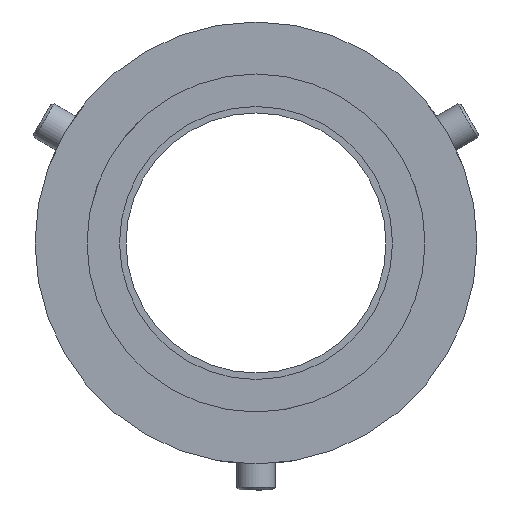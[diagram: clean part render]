
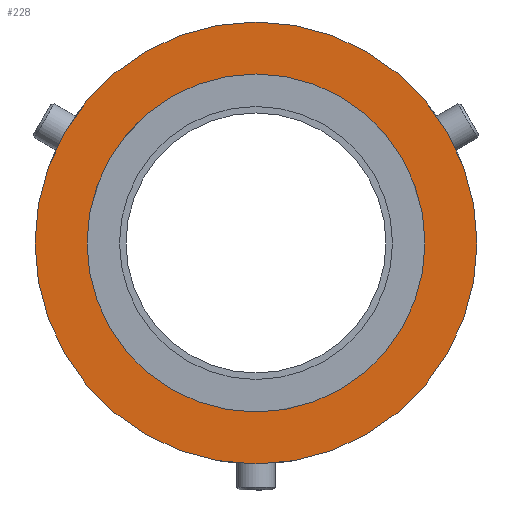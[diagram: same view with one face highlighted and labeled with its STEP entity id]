
A CAD part, front view. The second image highlights one B-rep face of the part: STEP entity #228.
In plain terms, the highlighted planar face has unit normal (0, -1, 0).
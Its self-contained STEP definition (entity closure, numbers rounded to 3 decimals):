
#44 = CIRCLE ( 'NONE', #1805, 17. ) ;
#57 = DIRECTION ( 'NONE',  ( 0., -1., 0. ) ) ;
#63 = AXIS2_PLACEMENT_3D ( 'NONE', #2050, #535, #1862 ) ;
#93 = EDGE_LOOP ( 'NONE', ( #1822, #1949 ) ) ;
#228 = ADVANCED_FACE ( 'NONE', ( #1241, #2182 ), #1113, .T. ) ;
#535 = DIRECTION ( 'NONE',  ( 0., -1., 0. ) ) ;
#564 = AXIS2_PLACEMENT_3D ( 'NONE', #989, #2124, #793 ) ;
#623 = EDGE_LOOP ( 'NONE', ( #2410, #1262 ) ) ;
#707 = CARTESIAN_POINT ( 'NONE',  ( 0., 0., 0. ) ) ;
#789 = VERTEX_POINT ( 'NONE', #1329 ) ;
#793 = DIRECTION ( 'NONE',  ( 0., 0., -1. ) ) ;
#917 = DIRECTION ( 'NONE',  ( 0., 0., -1. ) ) ;
#989 = CARTESIAN_POINT ( 'NONE',  ( 0., 0., 0. ) ) ;
#1022 = VERTEX_POINT ( 'NONE', #2266 ) ;
#1064 = DIRECTION ( 'NONE',  ( 0., -1., 0. ) ) ;
#1113 = PLANE ( 'NONE',  #63 ) ;
#1133 = AXIS2_PLACEMENT_3D ( 'NONE', #1366, #1182, #2310 ) ;
#1182 = DIRECTION ( 'NONE',  ( 0., -1., 0. ) ) ;
#1231 = DIRECTION ( 'NONE',  ( 0., 0., -1. ) ) ;
#1241 = FACE_BOUND ( 'NONE', #93, .T. ) ;
#1256 = VERTEX_POINT ( 'NONE', #1441 ) ;
#1262 = ORIENTED_EDGE ( 'NONE', *, *, #2160, .T. ) ;
#1295 = CIRCLE ( 'NONE', #564, 17. ) ;
#1329 = CARTESIAN_POINT ( 'NONE',  ( 0., 0., -13. ) ) ;
#1351 = CIRCLE ( 'NONE', #1133, 13. ) ;
#1366 = CARTESIAN_POINT ( 'NONE',  ( 0., 0., 0. ) ) ;
#1384 = EDGE_CURVE ( 'NONE', #2125, #1256, #44, .T. ) ;
#1428 = EDGE_CURVE ( 'NONE', #1022, #789, #1524, .T. ) ;
#1441 = CARTESIAN_POINT ( 'NONE',  ( 0., 0., 17. ) ) ;
#1524 = CIRCLE ( 'NONE', #2372, 13. ) ;
#1554 = EDGE_CURVE ( 'NONE', #789, #1022, #1351, .T. ) ;
#1561 = CARTESIAN_POINT ( 'NONE',  ( 0., 0., -17. ) ) ;
#1805 = AXIS2_PLACEMENT_3D ( 'NONE', #2057, #57, #1231 ) ;
#1822 = ORIENTED_EDGE ( 'NONE', *, *, #1554, .F. ) ;
#1862 = DIRECTION ( 'NONE',  ( 0., 0., -1. ) ) ;
#1949 = ORIENTED_EDGE ( 'NONE', *, *, #1428, .F. ) ;
#2050 = CARTESIAN_POINT ( 'NONE',  ( 10., 0., 0. ) ) ;
#2057 = CARTESIAN_POINT ( 'NONE',  ( 0., 0., 0. ) ) ;
#2124 = DIRECTION ( 'NONE',  ( 0., -1., 0. ) ) ;
#2125 = VERTEX_POINT ( 'NONE', #1561 ) ;
#2160 = EDGE_CURVE ( 'NONE', #1256, #2125, #1295, .T. ) ;
#2182 = FACE_OUTER_BOUND ( 'NONE', #623, .T. ) ;
#2266 = CARTESIAN_POINT ( 'NONE',  ( 0., 0., 13. ) ) ;
#2310 = DIRECTION ( 'NONE',  ( 0., 0., -1. ) ) ;
#2372 = AXIS2_PLACEMENT_3D ( 'NONE', #707, #1064, #917 ) ;
#2410 = ORIENTED_EDGE ( 'NONE', *, *, #1384, .T. ) ;
